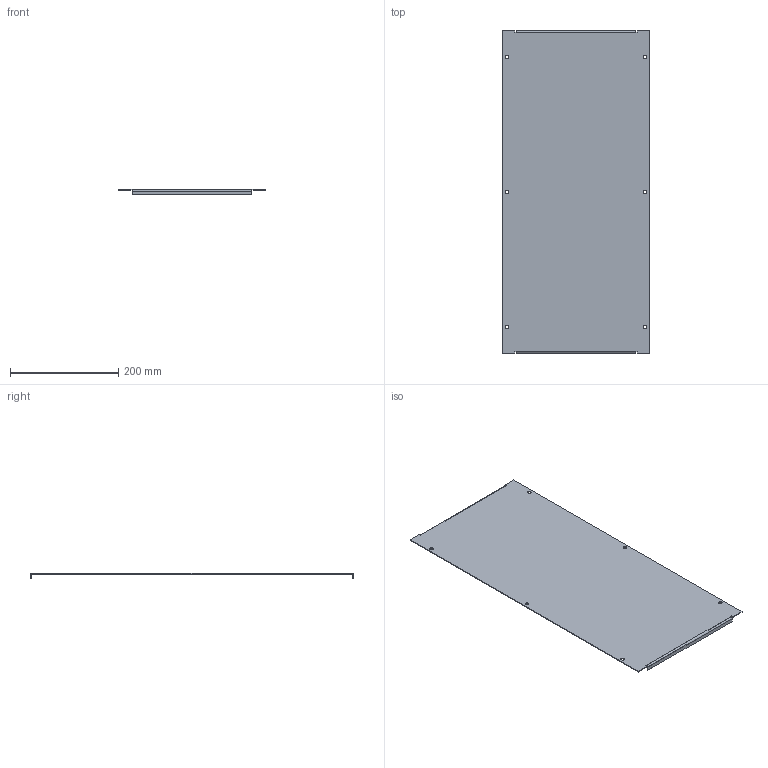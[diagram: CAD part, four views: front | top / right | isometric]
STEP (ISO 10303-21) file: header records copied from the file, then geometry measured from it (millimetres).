
FILE_DESCRIPTION(('STEP AP203'), '1');
FILE_NAME('Ïëàñòðîí ãëóõîé 600õ400 ìì OptiBox M 419424 ÊÝÀÇ', '', ('UNSPECIFIED'), ('UNSPECIFIED'), 'C3D Converter', 'C3D Toolkit', '');
FILE_SCHEMA(('CONFIG_CONTROL_DESIGN'));
Length unit declared in the file: millimetre
Bounding box: 272 x 597 x 10 mm (x, y, z)
Volume: 231718.7 mm3; surface area: 333704.1 mm2
Topology: 1 solids, 1 shells, 40 faces, 98 edges, 60 vertices
Faces by surface type: plane 30, cylinder 10
Full cylindrical faces by diameter (mm): 6.3 x6
Entity records: 1188 total; most frequent: DIRECTION 194, CARTESIAN_POINT 193, ORIENTED_EDGE 184, EDGE_CURVE 92, LINE 72, VECTOR 72, AXIS2_PLACEMENT_3D 61, VERTEX_POINT 60
